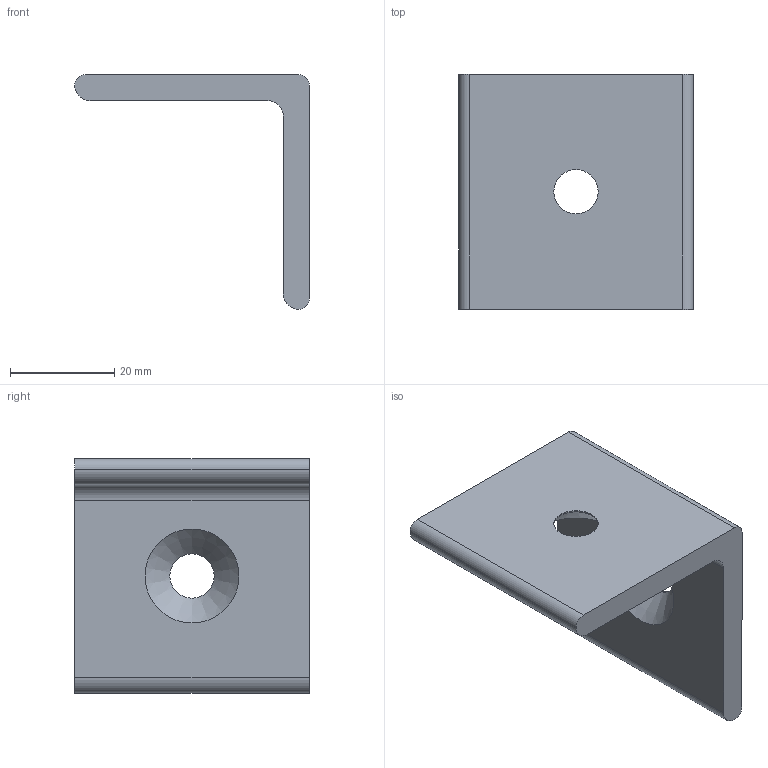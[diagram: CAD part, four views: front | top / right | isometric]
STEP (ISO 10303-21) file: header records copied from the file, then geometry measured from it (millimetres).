
FILE_DESCRIPTION(/* description */ ('www.motedis.com/part/BR45STB','CAx-IF Rec.Pracs.---Representation and Presentation of Product Manufacturing Information (PMI)---4.0---2014-10-13'),/* implementation_level */ '2;1');
FILE_NAME(/* name */ 'Motedis_BR45STB.stp',/* time_stamp */ '2026-09-15T10:40:53+02:00',/* author */ ('Motedis'),/* organization */ ('Motedis GmbH'),/* preprocessor_version */ 'ST-DEVELOPER v20.1',/* originating_system */ 'Autodesk Inventor 2026',/* authorisation */ 'Motedis GmbH');
FILE_SCHEMA (('AP242_MANAGED_MODEL_BASED_3D_ENGINEERING_MIM_LF { 1 0 10303 442 2 1 4 }'));
Length unit declared in the file: millimetre
Products named in the file (1): Motedis_BR45STB
Bounding box: 45 x 45 x 45 mm (x, y, z)
Volume: 17527.8 mm3; surface area: 8601.4 mm2
Topology: 1 solids, 1 shells, 16 faces, 40 edges, 26 vertices
Faces by surface type: cylinder 8, plane 6, cone 2
Full cylindrical faces by diameter (mm): 8.5 x2
Entity records: 659 total; most frequent: DIRECTION 124, CARTESIAN_POINT 104, ORIENTED_EDGE 80, AXIS2_PLACEMENT_3D 51, EDGE_CURVE 40, VERTEX_POINT 26, LINE 22, VECTOR 22
